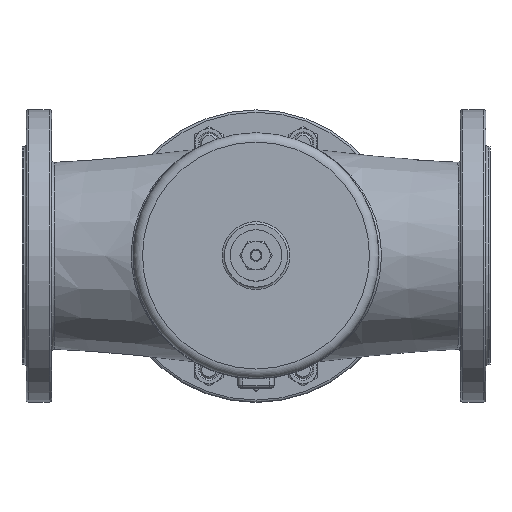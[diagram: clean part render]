
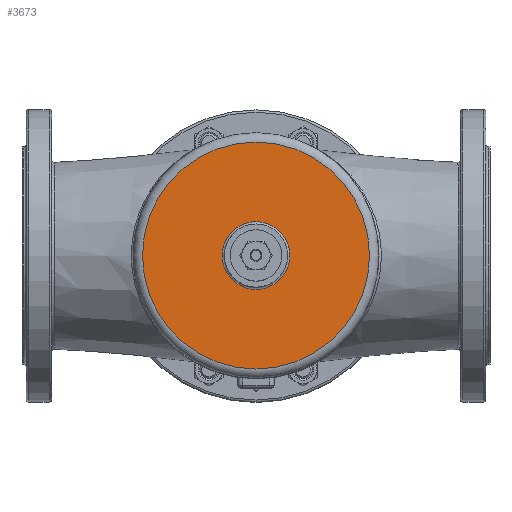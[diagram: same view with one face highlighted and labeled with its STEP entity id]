
A CAD part, top view. The second image highlights one B-rep face of the part: STEP entity #3673.
In plain terms, the highlighted planar face has unit normal (0, 0, 1).
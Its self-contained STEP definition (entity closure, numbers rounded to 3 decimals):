
#3673=ADVANCED_FACE('',(#4340,#4341),#4137,.T.);
#4137=PLANE('',#9170);
#4340=FACE_BOUND('',#4737,.T.);
#4341=FACE_BOUND('',#4738,.T.);
#4737=EDGE_LOOP('',(#5497));
#4738=EDGE_LOOP('',(#5498));
#5497=ORIENTED_EDGE('',*,*,#7888,.T.);
#5498=ORIENTED_EDGE('',*,*,#7889,.T.);
#7270=VERTEX_POINT('',#12411);
#7271=VERTEX_POINT('',#12413);
#7888=EDGE_CURVE('',#7270,#7270,#8766,.T.);
#7889=EDGE_CURVE('',#7271,#7271,#8767,.T.);
#8766=CIRCLE('',#9168,97.);
#8767=CIRCLE('',#9169,29.);
#9168=AXIS2_PLACEMENT_3D('',#12410,#10100,#10101);
#9169=AXIS2_PLACEMENT_3D('',#12412,#10102,#10103);
#9170=AXIS2_PLACEMENT_3D('',#12414,#10104,#10105);
#10100=DIRECTION('',(0.,0.,1.));
#10101=DIRECTION('',(1.,0.,0.));
#10102=DIRECTION('',(0.,0.,-1.));
#10103=DIRECTION('',(1.,0.,0.));
#10104=DIRECTION('',(0.,0.,1.));
#10105=DIRECTION('',(1.,0.,0.));
#12410=CARTESIAN_POINT('',(420.,0.,113.5));
#12411=CARTESIAN_POINT('',(517.,0.,113.5));
#12412=CARTESIAN_POINT('',(420.,0.,113.5));
#12413=CARTESIAN_POINT('',(449.,0.,113.5));
#12414=CARTESIAN_POINT('',(420.,0.,113.5));
